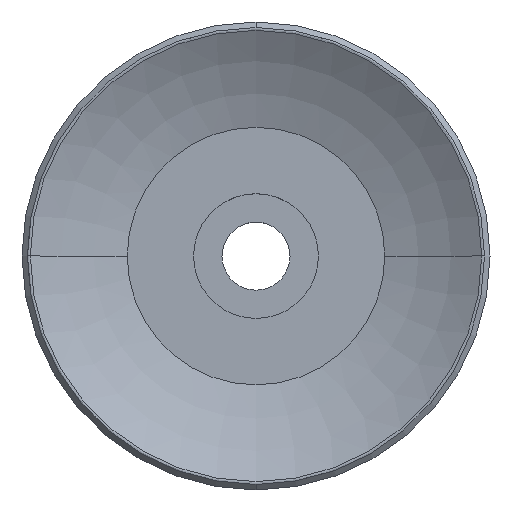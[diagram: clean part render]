
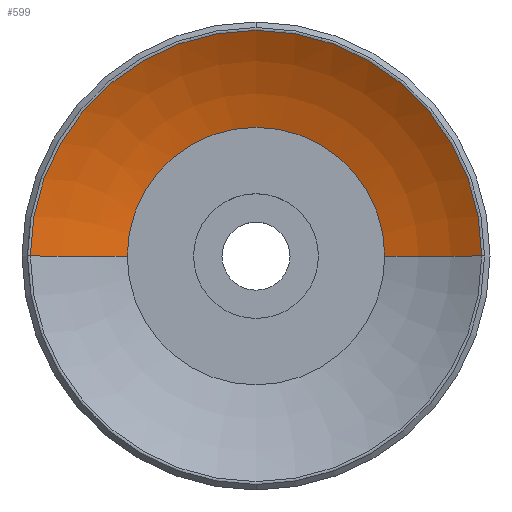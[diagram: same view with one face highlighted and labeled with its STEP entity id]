
A CAD part, top view. The second image highlights one B-rep face of the part: STEP entity #599.
In plain terms, the highlighted toroidal (fillet/blend) face has major radius 3.397 mm and minor radius 30 mm.
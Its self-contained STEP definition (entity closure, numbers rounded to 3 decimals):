
#10 = ORIENTED_EDGE ( 'NONE', *, *, #24, .F. ) ;
#24 = EDGE_CURVE ( 'NONE', #267, #227, #299, .T. ) ;
#29 = VERTEX_POINT ( 'NONE', #660 ) ;
#56 = CARTESIAN_POINT ( 'NONE',  ( 0., 0., 10.1 ) ) ;
#97 = EDGE_CURVE ( 'NONE', #227, #29, #392, .T. ) ;
#106 = CIRCLE ( 'NONE', #674, 11.35 ) ;
#111 = ORIENTED_EDGE ( 'NONE', *, *, #97, .F. ) ;
#122 = DIRECTION ( 'NONE',  ( -1., 0., 0. ) ) ;
#125 = TOROIDAL_SURFACE ( 'NONE', #279, 3.397, 30. ) ;
#131 = EDGE_LOOP ( 'NONE', ( #10, #546, #374, #111 ) ) ;
#183 = CARTESIAN_POINT ( 'NONE',  ( 0., 0., 13.967 ) ) ;
#198 = EDGE_CURVE ( 'NONE', #657, #29, #651, .T. ) ;
#202 = CARTESIAN_POINT ( 'NONE',  ( 3.397, 0., 39.027 ) ) ;
#227 = VERTEX_POINT ( 'NONE', #412 ) ;
#232 = FACE_OUTER_BOUND ( 'NONE', #131, .T. ) ;
#241 = DIRECTION ( 'NONE',  ( -1., 0., 0. ) ) ;
#258 = DIRECTION ( 'NONE',  ( 0., 0., -1. ) ) ;
#267 = VERTEX_POINT ( 'NONE', #622 ) ;
#274 = DIRECTION ( 'NONE',  ( 1., 0., 0. ) ) ;
#279 = AXIS2_PLACEMENT_3D ( 'NONE', #330, #477, #274 ) ;
#299 = CIRCLE ( 'NONE', #382, 30. ) ;
#303 = CARTESIAN_POINT ( 'NONE',  ( -3.397, 0., 39.027 ) ) ;
#312 = CARTESIAN_POINT ( 'NONE',  ( 11.35, 0., 10.1 ) ) ;
#324 = EDGE_CURVE ( 'NONE', #267, #657, #106, .T. ) ;
#330 = CARTESIAN_POINT ( 'NONE',  ( 0., 0., 39.027 ) ) ;
#374 = ORIENTED_EDGE ( 'NONE', *, *, #198, .T. ) ;
#382 = AXIS2_PLACEMENT_3D ( 'NONE', #303, #607, #241 ) ;
#392 = CIRCLE ( 'NONE', #549, 19.89 ) ;
#412 = CARTESIAN_POINT ( 'NONE',  ( -19.89, 0., 13.967 ) ) ;
#477 = DIRECTION ( 'NONE',  ( 0., 0., 1. ) ) ;
#543 = DIRECTION ( 'NONE',  ( 0., 0., -1. ) ) ;
#546 = ORIENTED_EDGE ( 'NONE', *, *, #324, .T. ) ;
#549 = AXIS2_PLACEMENT_3D ( 'NONE', #183, #543, #122 ) ;
#565 = DIRECTION ( 'NONE',  ( 0., -1., 0. ) ) ;
#587 = AXIS2_PLACEMENT_3D ( 'NONE', #202, #565, #258 ) ;
#599 = ADVANCED_FACE ( 'NONE', ( #232 ), #125, .F. ) ;
#607 = DIRECTION ( 'NONE',  ( 0., 1., 0. ) ) ;
#622 = CARTESIAN_POINT ( 'NONE',  ( -11.35, 0., 10.1 ) ) ;
#651 = CIRCLE ( 'NONE', #587, 30. ) ;
#657 = VERTEX_POINT ( 'NONE', #312 ) ;
#660 = CARTESIAN_POINT ( 'NONE',  ( 19.89, 0., 13.967 ) ) ;
#663 = DIRECTION ( 'NONE',  ( 1., 0., 0. ) ) ;
#674 = AXIS2_PLACEMENT_3D ( 'NONE', #56, #684, #663 ) ;
#684 = DIRECTION ( 'NONE',  ( 0., 0., -1. ) ) ;
